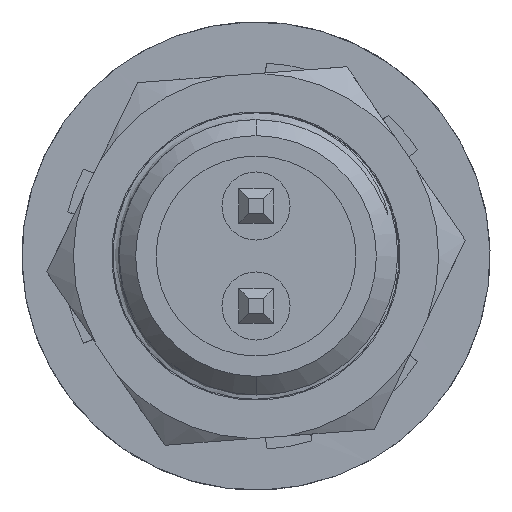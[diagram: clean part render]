
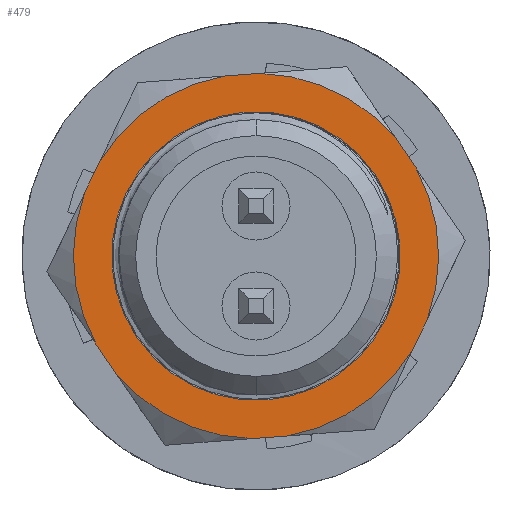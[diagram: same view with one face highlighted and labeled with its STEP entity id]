
A CAD part, left-side view. The second image highlights one B-rep face of the part: STEP entity #479.
In plain terms, the highlighted planar face has unit normal (-1, 0, 0) as drawn and (0, 0, 1) by its records, which use the part's own axes.
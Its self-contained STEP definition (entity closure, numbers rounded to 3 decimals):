
#171 = DIRECTION ( 'NONE',  ( -0.866, 0.5, 0. ) ) ;
#327 = CARTESIAN_POINT ( 'NONE',  ( 8., 0., 1.6 ) ) ;
#347 = CARTESIAN_POINT ( 'NONE',  ( -4., 0.388, 1.6 ) ) ;
#479 = ADVANCED_FACE ( 'NONE', ( #3153, #23072 ), #5996, .F. ) ;
#524 = EDGE_CURVE ( 'NONE', #11250, #21389, #5029, .T. ) ;
#667 = EDGE_CURVE ( 'NONE', #22284, #10002, #5375, .T. ) ;
#1545 = VERTEX_POINT ( 'NONE', #12120 ) ;
#1630 = CARTESIAN_POINT ( 'NONE',  ( -2.336, -3.27, 1.6 ) ) ;
#1738 = ORIENTED_EDGE ( 'NONE', *, *, #22262, .F. ) ;
#1762 = CARTESIAN_POINT ( 'NONE',  ( 2.336, -3.27, 1.6 ) ) ;
#1972 = ORIENTED_EDGE ( 'NONE', *, *, #3789, .T. ) ;
#2159 = DIRECTION ( 'NONE',  ( 0., 0., -1. ) ) ;
#2224 = VECTOR ( 'NONE', #15482, 1000. ) ;
#3084 = ORIENTED_EDGE ( 'NONE', *, *, #667, .F. ) ;
#3153 = FACE_OUTER_BOUND ( 'NONE', #10782, .T. ) ;
#3287 = ORIENTED_EDGE ( 'NONE', *, *, #10831, .T. ) ;
#3789 = EDGE_CURVE ( 'NONE', #14721, #1545, #13571, .T. ) ;
#3816 = VECTOR ( 'NONE', #6662, 1000. ) ;
#4377 = EDGE_CURVE ( 'NONE', #1545, #14721, #15435, .T. ) ;
#4463 = ORIENTED_EDGE ( 'NONE', *, *, #25407, .T. ) ;
#4578 = ORIENTED_EDGE ( 'NONE', *, *, #10573, .T. ) ;
#4799 = ORIENTED_EDGE ( 'NONE', *, *, #4377, .T. ) ;
#4891 = CARTESIAN_POINT ( 'NONE',  ( 2.336, 3.27, 1.6 ) ) ;
#5029 = LINE ( 'NONE', #11253, #2224 ) ;
#5279 = ORIENTED_EDGE ( 'NONE', *, *, #14064, .T. ) ;
#5338 = CARTESIAN_POINT ( 'NONE',  ( 1.664, 3.658, 1.6 ) ) ;
#5375 = CIRCLE ( 'NONE', #9700, 4.019 ) ;
#5464 = CARTESIAN_POINT ( 'NONE',  ( -4., 2.309, 1.6 ) ) ;
#5482 = LINE ( 'NONE', #5464, #23847 ) ;
#5539 = CARTESIAN_POINT ( 'NONE',  ( 0., 0., 1.6 ) ) ;
#5844 = DIRECTION ( 'NONE',  ( 0., 0., -1. ) ) ;
#5996 = PLANE ( 'NONE',  #21017 ) ;
#6327 = DIRECTION ( 'NONE',  ( 0., 0., -1. ) ) ;
#6525 = CARTESIAN_POINT ( 'NONE',  ( -1.664, -3.658, 1.6 ) ) ;
#6662 = DIRECTION ( 'NONE',  ( 0., 1., 0. ) ) ;
#6738 = ORIENTED_EDGE ( 'NONE', *, *, #20494, .F. ) ;
#6906 = DIRECTION ( 'NONE',  ( 0., 0., -1. ) ) ;
#7018 = CARTESIAN_POINT ( 'NONE',  ( 0., -4.619, 1.6 ) ) ;
#7406 = DIRECTION ( 'NONE',  ( 0., 0., -1. ) ) ;
#7798 = CARTESIAN_POINT ( 'NONE',  ( 0., 0., 1.6 ) ) ;
#7840 = VECTOR ( 'NONE', #171, 1000. ) ;
#7868 = VERTEX_POINT ( 'NONE', #24707 ) ;
#8577 = CARTESIAN_POINT ( 'NONE',  ( 4., 0.388, 1.6 ) ) ;
#8594 = CARTESIAN_POINT ( 'NONE',  ( -3.175, 0., 1.6 ) ) ;
#8660 = CARTESIAN_POINT ( 'NONE',  ( -1.664, 3.658, 1.6 ) ) ;
#9172 = LINE ( 'NONE', #7018, #25947 ) ;
#9700 = AXIS2_PLACEMENT_3D ( 'NONE', #7798, #5844, #21568 ) ;
#9762 = CARTESIAN_POINT ( 'NONE',  ( 1.664, -3.658, 1.6 ) ) ;
#10002 = VERTEX_POINT ( 'NONE', #1762 ) ;
#10254 = CIRCLE ( 'NONE', #21485, 4.019 ) ;
#10573 = EDGE_CURVE ( 'NONE', #23142, #17428, #13468, .T. ) ;
#10717 = DIRECTION ( 'NONE',  ( 0., 0., -1. ) ) ;
#10782 = EDGE_LOOP ( 'NONE', ( #23625, #23293, #6738, #4463, #3084, #3287, #24177, #5279, #23525, #4578, #1738, #25028 ) ) ;
#10831 = EDGE_CURVE ( 'NONE', #22284, #18411, #23774, .T. ) ;
#11104 = DIRECTION ( 'NONE',  ( 0.866, 0.5, 0. ) ) ;
#11179 = CIRCLE ( 'NONE', #19683, 4.019 ) ;
#11250 = VERTEX_POINT ( 'NONE', #1630 ) ;
#11253 = CARTESIAN_POINT ( 'NONE',  ( -4., -2.309, 1.6 ) ) ;
#11529 = DIRECTION ( 'NONE',  ( 0., 0., -1. ) ) ;
#12120 = CARTESIAN_POINT ( 'NONE',  ( 3.175, 0., 1.6 ) ) ;
#12347 = DIRECTION ( 'NONE',  ( -1., 0., 0. ) ) ;
#12403 = DIRECTION ( 'NONE',  ( -1., 0., 0. ) ) ;
#12654 = DIRECTION ( 'NONE',  ( -1., 0., 0. ) ) ;
#13053 = AXIS2_PLACEMENT_3D ( 'NONE', #16356, #2159, #12403 ) ;
#13468 = LINE ( 'NONE', #26043, #19469 ) ;
#13515 = LINE ( 'NONE', #20391, #7840 ) ;
#13571 = CIRCLE ( 'NONE', #13053, 3.175 ) ;
#13642 = CARTESIAN_POINT ( 'NONE',  ( 0., 0., 1.6 ) ) ;
#13972 = EDGE_LOOP ( 'NONE', ( #1972, #4799 ) ) ;
#14048 = CIRCLE ( 'NONE', #20324, 4.019 ) ;
#14064 = EDGE_CURVE ( 'NONE', #22272, #24387, #13515, .T. ) ;
#14721 = VERTEX_POINT ( 'NONE', #8594 ) ;
#14792 = CARTESIAN_POINT ( 'NONE',  ( -2.336, 3.27, 1.6 ) ) ;
#15231 = DIRECTION ( 'NONE',  ( 0., 0., -1. ) ) ;
#15322 = CIRCLE ( 'NONE', #18938, 4.019 ) ;
#15435 = CIRCLE ( 'NONE', #18752, 3.175 ) ;
#15482 = DIRECTION ( 'NONE',  ( 0.866, -0.5, 0. ) ) ;
#15489 = DIRECTION ( 'NONE',  ( -1., 0., 0. ) ) ;
#15760 = DIRECTION ( 'NONE',  ( 0., 0., -1. ) ) ;
#16356 = CARTESIAN_POINT ( 'NONE',  ( 0., 0., 1.6 ) ) ;
#16631 = CARTESIAN_POINT ( 'NONE',  ( 4., -2.309, 1.6 ) ) ;
#16779 = CARTESIAN_POINT ( 'NONE',  ( 0., 0., 1.6 ) ) ;
#17428 = VERTEX_POINT ( 'NONE', #14792 ) ;
#17474 = DIRECTION ( 'NONE',  ( -1., 0., 0. ) ) ;
#17799 = DIRECTION ( 'NONE',  ( -1., 0., 0. ) ) ;
#18057 = VERTEX_POINT ( 'NONE', #9762 ) ;
#18411 = VERTEX_POINT ( 'NONE', #8577 ) ;
#18752 = AXIS2_PLACEMENT_3D ( 'NONE', #13642, #11529, #15489 ) ;
#18840 = DIRECTION ( 'NONE',  ( -1., 0., 0. ) ) ;
#18938 = AXIS2_PLACEMENT_3D ( 'NONE', #25218, #15231, #19136 ) ;
#19136 = DIRECTION ( 'NONE',  ( -1., 0., 0. ) ) ;
#19469 = VECTOR ( 'NONE', #21801, 1000. ) ;
#19502 = EDGE_CURVE ( 'NONE', #22272, #18411, #15322, .T. ) ;
#19606 = CARTESIAN_POINT ( 'NONE',  ( 4., -0.388, 1.6 ) ) ;
#19626 = DIRECTION ( 'NONE',  ( 0., -1., 0. ) ) ;
#19683 = AXIS2_PLACEMENT_3D ( 'NONE', #19912, #15760, #17799 ) ;
#19912 = CARTESIAN_POINT ( 'NONE',  ( 0., 0., 1.6 ) ) ;
#20324 = AXIS2_PLACEMENT_3D ( 'NONE', #5539, #7406, #17474 ) ;
#20391 = CARTESIAN_POINT ( 'NONE',  ( 4., 2.309, 1.6 ) ) ;
#20494 = EDGE_CURVE ( 'NONE', #18057, #21389, #10254, .T. ) ;
#20497 = EDGE_CURVE ( 'NONE', #23142, #24387, #25752, .T. ) ;
#21017 = AXIS2_PLACEMENT_3D ( 'NONE', #327, #6327, #12347 ) ;
#21287 = VERTEX_POINT ( 'NONE', #347 ) ;
#21389 = VERTEX_POINT ( 'NONE', #6525 ) ;
#21485 = AXIS2_PLACEMENT_3D ( 'NONE', #16779, #6906, #18840 ) ;
#21510 = EDGE_CURVE ( 'NONE', #21287, #7868, #5482, .T. ) ;
#21568 = DIRECTION ( 'NONE',  ( -1., 0., 0. ) ) ;
#21801 = DIRECTION ( 'NONE',  ( -0.866, -0.5, 0. ) ) ;
#22262 = EDGE_CURVE ( 'NONE', #21287, #17428, #14048, .T. ) ;
#22272 = VERTEX_POINT ( 'NONE', #4891 ) ;
#22284 = VERTEX_POINT ( 'NONE', #19606 ) ;
#22832 = AXIS2_PLACEMENT_3D ( 'NONE', #25102, #10717, #12654 ) ;
#23072 = FACE_BOUND ( 'NONE', #13972, .T. ) ;
#23142 = VERTEX_POINT ( 'NONE', #8660 ) ;
#23293 = ORIENTED_EDGE ( 'NONE', *, *, #524, .T. ) ;
#23525 = ORIENTED_EDGE ( 'NONE', *, *, #20497, .F. ) ;
#23625 = ORIENTED_EDGE ( 'NONE', *, *, #23906, .F. ) ;
#23774 = LINE ( 'NONE', #16631, #3816 ) ;
#23847 = VECTOR ( 'NONE', #19626, 1000. ) ;
#23906 = EDGE_CURVE ( 'NONE', #11250, #7868, #11179, .T. ) ;
#24177 = ORIENTED_EDGE ( 'NONE', *, *, #19502, .F. ) ;
#24387 = VERTEX_POINT ( 'NONE', #5338 ) ;
#24707 = CARTESIAN_POINT ( 'NONE',  ( -4., -0.388, 1.6 ) ) ;
#25028 = ORIENTED_EDGE ( 'NONE', *, *, #21510, .T. ) ;
#25102 = CARTESIAN_POINT ( 'NONE',  ( 0., 0., 1.6 ) ) ;
#25218 = CARTESIAN_POINT ( 'NONE',  ( 0., 0., 1.6 ) ) ;
#25407 = EDGE_CURVE ( 'NONE', #18057, #10002, #9172, .T. ) ;
#25752 = CIRCLE ( 'NONE', #22832, 4.019 ) ;
#25947 = VECTOR ( 'NONE', #11104, 1000. ) ;
#26043 = CARTESIAN_POINT ( 'NONE',  ( 0., 4.619, 1.6 ) ) ;
